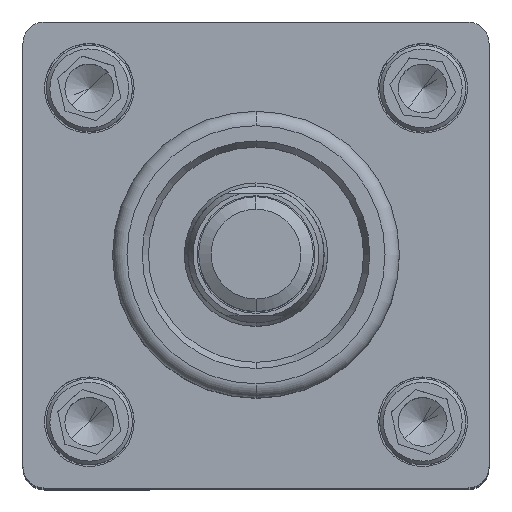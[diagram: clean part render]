
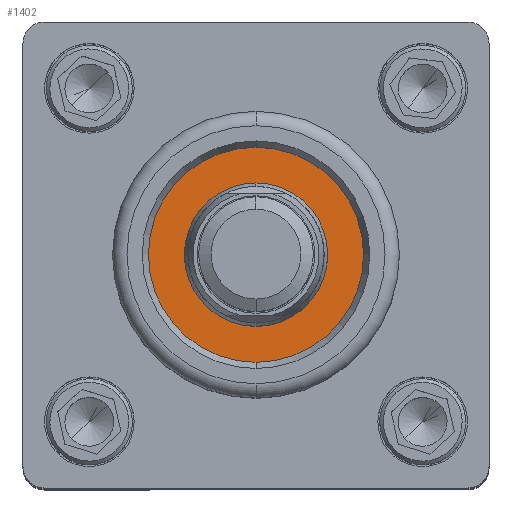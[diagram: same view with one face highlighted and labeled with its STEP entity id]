
A CAD part, top view. The second image highlights one B-rep face of the part: STEP entity #1402.
In plain terms, the highlighted planar face has unit normal (0, 0, 1).
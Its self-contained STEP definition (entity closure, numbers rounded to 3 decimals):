
#107 = EDGE_CURVE ( 'NONE', #9566, #2739, #2442, .T. ) ;
#189 = DIRECTION ( 'NONE',  ( 0., 0., 1. ) ) ;
#209 = EDGE_CURVE ( 'NONE', #7245, #4381, #8140, .T. ) ;
#219 = ORIENTED_EDGE ( 'NONE', *, *, #107, .T. ) ;
#725 = CARTESIAN_POINT ( 'NONE',  ( 0., 0., 127. ) ) ;
#869 = AXIS2_PLACEMENT_3D ( 'NONE', #7785, #970, #9799 ) ;
#970 = DIRECTION ( 'NONE',  ( 0., 0., -1. ) ) ;
#1402 = ADVANCED_FACE ( 'NONE', ( #9474, #11618 ), #1910, .F. ) ;
#1910 = PLANE ( 'NONE',  #869 ) ;
#2170 = AXIS2_PLACEMENT_3D ( 'NONE', #725, #12673, #8769 ) ;
#2241 = EDGE_LOOP ( 'NONE', ( #11981, #9344 ) ) ;
#2442 = CIRCLE ( 'NONE', #2170, 15. ) ;
#2739 = VERTEX_POINT ( 'NONE', #4989 ) ;
#3138 = DIRECTION ( 'NONE',  ( 0., 1., 0. ) ) ;
#4009 = DIRECTION ( 'NONE',  ( 0., 0., 1. ) ) ;
#4319 = AXIS2_PLACEMENT_3D ( 'NONE', #8199, #189, #3138 ) ;
#4335 = EDGE_CURVE ( 'NONE', #4381, #7245, #10169, .T. ) ;
#4381 = VERTEX_POINT ( 'NONE', #5090 ) ;
#4394 = CARTESIAN_POINT ( 'NONE',  ( 0., -10., 127. ) ) ;
#4795 = CARTESIAN_POINT ( 'NONE',  ( 0., 0., 127. ) ) ;
#4989 = CARTESIAN_POINT ( 'NONE',  ( 0., 15., 127. ) ) ;
#5090 = CARTESIAN_POINT ( 'NONE',  ( 0., 10., 127. ) ) ;
#5243 = CIRCLE ( 'NONE', #11642, 15. ) ;
#5413 = CARTESIAN_POINT ( 'NONE',  ( 0., -15., 127. ) ) ;
#6510 = ORIENTED_EDGE ( 'NONE', *, *, #8032, .T. ) ;
#7245 = VERTEX_POINT ( 'NONE', #4394 ) ;
#7785 = CARTESIAN_POINT ( 'NONE',  ( 0., 0., 127. ) ) ;
#8032 = EDGE_CURVE ( 'NONE', #2739, #9566, #5243, .T. ) ;
#8112 = AXIS2_PLACEMENT_3D ( 'NONE', #4795, #4009, #9744 ) ;
#8140 = CIRCLE ( 'NONE', #8112, 10. ) ;
#8199 = CARTESIAN_POINT ( 'NONE',  ( 0., 0., 127. ) ) ;
#8769 = DIRECTION ( 'NONE',  ( 0., -1., 0. ) ) ;
#9025 = DIRECTION ( 'NONE',  ( 0., 0., 1. ) ) ;
#9291 = EDGE_LOOP ( 'NONE', ( #6510, #219 ) ) ;
#9344 = ORIENTED_EDGE ( 'NONE', *, *, #209, .F. ) ;
#9474 = FACE_BOUND ( 'NONE', #2241, .T. ) ;
#9566 = VERTEX_POINT ( 'NONE', #5413 ) ;
#9744 = DIRECTION ( 'NONE',  ( 0., 1., 0. ) ) ;
#9799 = DIRECTION ( 'NONE',  ( 0., -1., 0. ) ) ;
#10169 = CIRCLE ( 'NONE', #4319, 10. ) ;
#11618 = FACE_OUTER_BOUND ( 'NONE', #9291, .T. ) ;
#11642 = AXIS2_PLACEMENT_3D ( 'NONE', #12015, #9025, #12143 ) ;
#11981 = ORIENTED_EDGE ( 'NONE', *, *, #4335, .F. ) ;
#12015 = CARTESIAN_POINT ( 'NONE',  ( 0., 0., 127. ) ) ;
#12143 = DIRECTION ( 'NONE',  ( 0., -1., 0. ) ) ;
#12673 = DIRECTION ( 'NONE',  ( 0., 0., 1. ) ) ;
